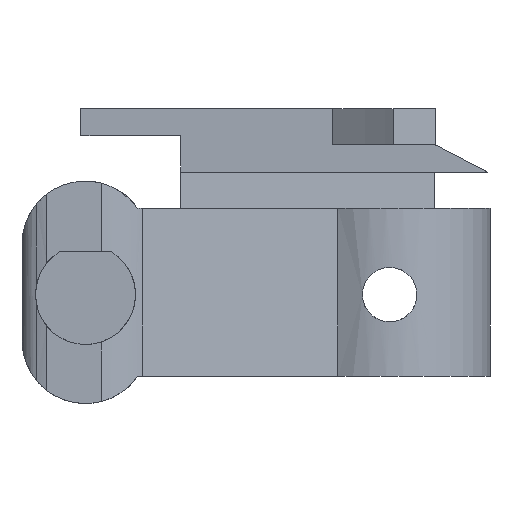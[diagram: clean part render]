
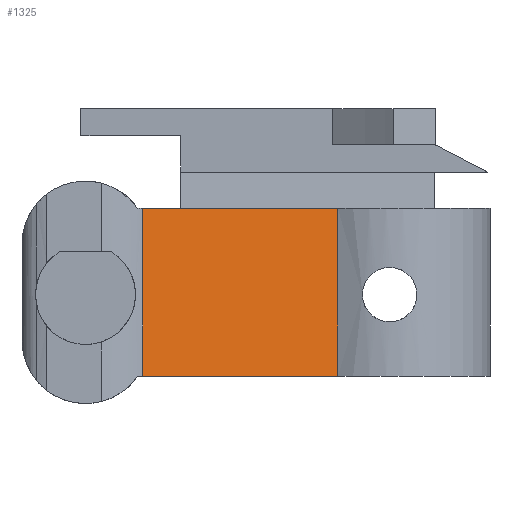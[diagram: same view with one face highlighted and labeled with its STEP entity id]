
A CAD part, front view. The second image highlights one B-rep face of the part: STEP entity #1325.
In plain terms, the highlighted planar face has unit normal (0.259, -0.966, 0).
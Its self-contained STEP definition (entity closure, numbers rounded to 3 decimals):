
#177=FACE_OUTER_BOUND('',#246,.T.);
#246=EDGE_LOOP('',(#1185,#1186,#1187,#1188));
#318=LINE('',#1967,#442);
#360=LINE('',#2323,#484);
#371=LINE('',#2421,#495);
#374=LINE('',#2428,#498);
#442=VECTOR('',#1603,10.);
#484=VECTOR('',#1743,10.);
#495=VECTOR('',#1780,10.);
#498=VECTOR('',#1791,10.);
#558=VERTEX_POINT('',#1964);
#559=VERTEX_POINT('',#1966);
#613=VERTEX_POINT('',#2321);
#631=VERTEX_POINT('',#2419);
#711=EDGE_CURVE('',#559,#558,#318,.T.);
#793=EDGE_CURVE('',#613,#558,#360,.T.);
#820=EDGE_CURVE('',#613,#631,#371,.T.);
#823=EDGE_CURVE('',#631,#559,#374,.T.);
#1185=ORIENTED_EDGE('',*,*,#711,.T.);
#1186=ORIENTED_EDGE('',*,*,#793,.F.);
#1187=ORIENTED_EDGE('',*,*,#820,.T.);
#1188=ORIENTED_EDGE('',*,*,#823,.T.);
#1259=PLANE('',#1455);
#1325=ADVANCED_FACE('',(#177),#1259,.T.);
#1455=AXIS2_PLACEMENT_3D('',#2427,#1789,#1790);
#1603=DIRECTION('',(-0.966,-0.259,0.));
#1743=DIRECTION('',(0.,0.,1.));
#1780=DIRECTION('',(0.966,0.259,0.));
#1789=DIRECTION('center_axis',(0.259,-0.966,0.));
#1790=DIRECTION('ref_axis',(0.,0.,-1.));
#1791=DIRECTION('',(0.,0.,1.));
#1964=CARTESIAN_POINT('',(-12.458,-15.287,35.7));
#1966=CARTESIAN_POINT('',(9.046,-9.525,35.7));
#1967=CARTESIAN_POINT('',(18.121,-7.093,35.7));
#2321=CARTESIAN_POINT('',(-12.458,-15.287,17.2));
#2323=CARTESIAN_POINT('',(-12.458,-15.287,14.2));
#2419=CARTESIAN_POINT('',(9.046,-9.525,17.2));
#2421=CARTESIAN_POINT('',(-0.052,-11.963,17.2));
#2427=CARTESIAN_POINT('Origin',(9.046,-9.525,14.2));
#2428=CARTESIAN_POINT('',(9.046,-9.525,14.2));
